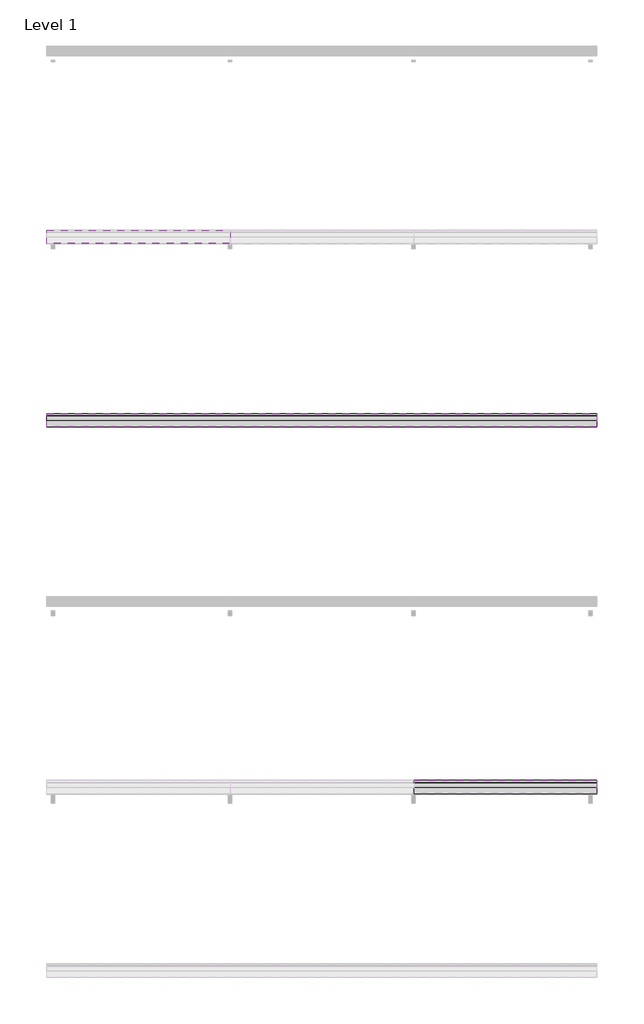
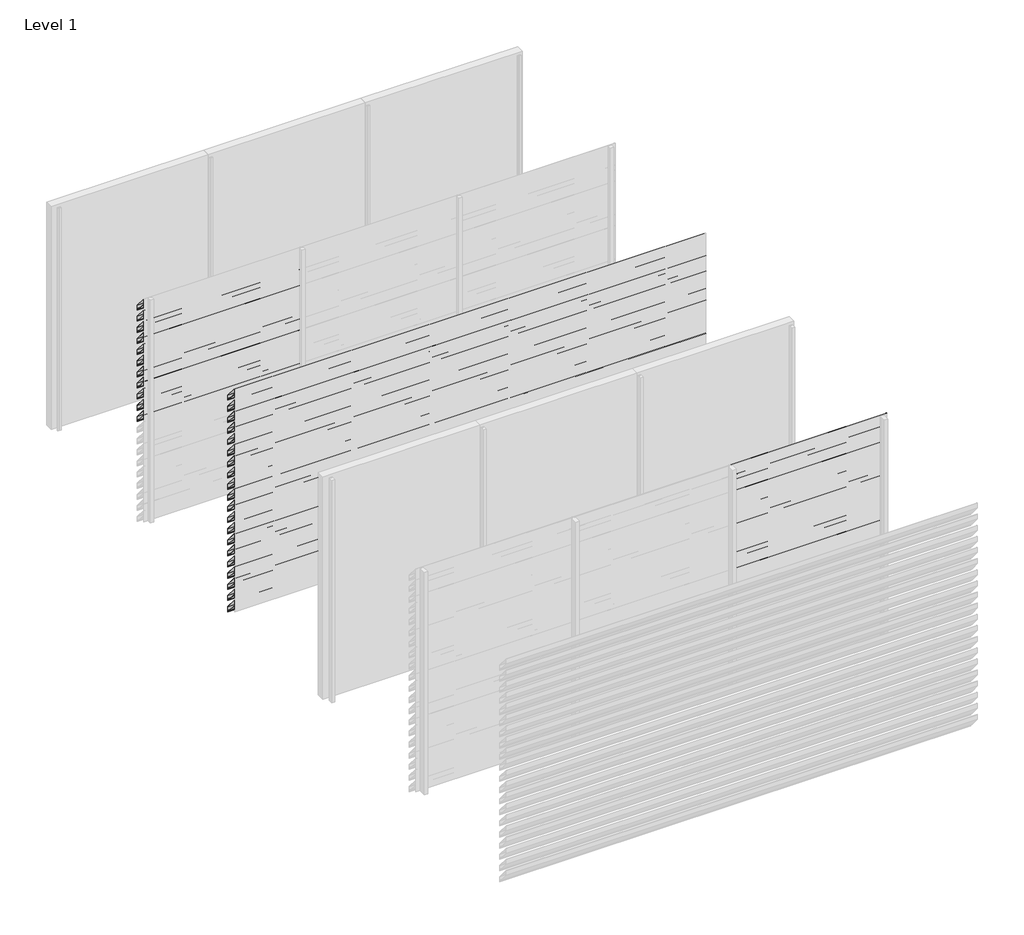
# One storey, part 8 of 16: 56 proxies.
"""IFC4 building model written with IfcOpenShell, lengths in millimetres."""

from ifc_helpers import new_model, si_unit, frame, origin, place, context, project, spatial, polyline, outline, extrude, element, save

model = new_model("IFC4")

# Units and contexts
model_context = context("Model", 3, world=origin())
ifc_project = project(units=[si_unit("LENGTHUNIT", "METRE", prefix="MILLI")], contexts=[model_context])

# Site, building, storey
site = spatial("IfcSite", under=ifc_project)
building = spatial("IfcBuilding", under=site)
storey = spatial("IfcBuildingStorey", under=building, Name="Level 1", Elevation=0.0)

# Proxies
placement = place(None, origin())
element("IfcBuildingElementProxy", 1, Name="Wall Sweeps", at=placement, inside=storey, context=model_context, shape_type="SweptSolid", body=[
    extrude(outline(polyline([(-29851.0, 2830.0), (-29851.0, 2761.0), (-29853.5, 2762.1657691), (-29853.5, 2775.7059843), (-29870.2498671, 2795.6676986), (-29880.9351065, 2795.6676986), (-29998.0, 2935.1802059), (-29998.0, 3000.0), (-29993.6469373, 3000.0), (-29851.0, 2830.0)]), holes=[polyline([(-29996.1, 2998.1), (-29996.1, 2935.8717493), (-29880.049122, 2797.5676986), (-29869.3638825, 2797.5676986), (-29852.9, 2777.9468074), (-29852.9, 2829.3084566), (-29994.5329219, 2998.1), (-29996.1, 2998.1)])]), frame((0.0, 0.0, 0.0), z_axis=(1.0, 0.0, 0.0), x_axis=(0.0, 1.0, 0.0)), (0.0, 0.0, 1.0), 2000.0),
])
element("IfcBuildingElementProxy", 2, Name="Wall Sweeps", at=placement, inside=storey, context=model_context, shape_type="SweptSolid", body=[
    extrude(outline(polyline([(-29851.0, 2680.0), (-29851.0, 2611.0), (-29853.5, 2612.1657691), (-29853.5, 2625.7059843), (-29870.2498671, 2645.6676986), (-29880.9351065, 2645.6676986), (-29998.0, 2785.1802059), (-29998.0, 2850.0), (-29993.6469373, 2850.0), (-29851.0, 2680.0)]), holes=[polyline([(-29996.1, 2848.1), (-29996.1, 2785.8717493), (-29880.049122, 2647.5676986), (-29869.3638825, 2647.5676986), (-29852.9, 2627.9468074), (-29852.9, 2679.3084566), (-29994.5329219, 2848.1), (-29996.1, 2848.1)])]), frame((0.0, 0.0, 0.0), z_axis=(1.0, 0.0, 0.0), x_axis=(0.0, 1.0, 0.0)), (0.0, 0.0, 1.0), 2000.0),
])
element("IfcBuildingElementProxy", 3, Name="Wall Sweeps", at=placement, inside=storey, context=model_context, shape_type="SweptSolid", body=[
    extrude(outline(polyline([(-29851.0, 2530.0), (-29851.0, 2461.0), (-29853.5, 2462.1657691), (-29853.5, 2475.7059843), (-29870.2498671, 2495.6676986), (-29880.9351065, 2495.6676986), (-29998.0, 2635.1802059), (-29998.0, 2700.0), (-29993.6469373, 2700.0), (-29851.0, 2530.0)]), holes=[polyline([(-29996.1, 2698.1), (-29996.1, 2635.8717493), (-29880.049122, 2497.5676986), (-29869.3638825, 2497.5676986), (-29852.9, 2477.9468074), (-29852.9, 2529.3084566), (-29994.5329219, 2698.1), (-29996.1, 2698.1)])]), frame((0.0, 0.0, 0.0), z_axis=(1.0, 0.0, 0.0), x_axis=(0.0, 1.0, 0.0)), (0.0, 0.0, 1.0), 2000.0),
])
element("IfcBuildingElementProxy", 4, Name="Wall Sweeps", at=placement, inside=storey, context=model_context, shape_type="SweptSolid", body=[
    extrude(outline(polyline([(-29851.0, 2380.0), (-29851.0, 2311.0), (-29853.5, 2312.1657691), (-29853.5, 2325.7059843), (-29870.2498671, 2345.6676986), (-29880.9351065, 2345.6676986), (-29998.0, 2485.1802059), (-29998.0, 2550.0), (-29993.6469373, 2550.0), (-29851.0, 2380.0)]), holes=[polyline([(-29996.1, 2548.1), (-29996.1, 2485.8717493), (-29880.049122, 2347.5676986), (-29869.3638825, 2347.5676986), (-29852.9, 2327.9468074), (-29852.9, 2379.3084566), (-29994.5329219, 2548.1), (-29996.1, 2548.1)])]), frame((0.0, 0.0, 0.0), z_axis=(1.0, 0.0, 0.0), x_axis=(0.0, 1.0, 0.0)), (0.0, 0.0, 1.0), 2000.0),
])
element("IfcBuildingElementProxy", 5, Name="Wall Sweeps", at=placement, inside=storey, context=model_context, shape_type="SweptSolid", body=[
    extrude(outline(polyline([(-29851.0, 2230.0), (-29851.0, 2161.0), (-29853.5, 2162.1657691), (-29853.5, 2175.7059843), (-29870.2498671, 2195.6676986), (-29880.9351065, 2195.6676986), (-29998.0, 2335.1802059), (-29998.0, 2400.0), (-29993.6469373, 2400.0), (-29851.0, 2230.0)]), holes=[polyline([(-29996.1, 2398.1), (-29996.1, 2335.8717493), (-29880.049122, 2197.5676986), (-29869.3638825, 2197.5676986), (-29852.9, 2177.9468074), (-29852.9, 2229.3084566), (-29994.5329219, 2398.1), (-29996.1, 2398.1)])]), frame((0.0, 0.0, 0.0), z_axis=(1.0, 0.0, 0.0), x_axis=(0.0, 1.0, 0.0)), (0.0, 0.0, 1.0), 2000.0),
])
element("IfcBuildingElementProxy", 6, Name="Wall Sweeps", at=placement, inside=storey, context=model_context, shape_type="SweptSolid", body=[
    extrude(outline(polyline([(-29851.0, 2080.0), (-29851.0, 2011.0), (-29853.5, 2012.1657691), (-29853.5, 2025.7059843), (-29870.2498671, 2045.6676986), (-29880.9351065, 2045.6676986), (-29998.0, 2185.1802059), (-29998.0, 2250.0), (-29993.6469373, 2250.0), (-29851.0, 2080.0)]), holes=[polyline([(-29996.1, 2248.1), (-29996.1, 2185.8717493), (-29880.049122, 2047.5676986), (-29869.3638825, 2047.5676986), (-29852.9, 2027.9468074), (-29852.9, 2079.3084566), (-29994.5329219, 2248.1), (-29996.1, 2248.1)])]), frame((0.0, 0.0, 0.0), z_axis=(1.0, 0.0, 0.0), x_axis=(0.0, 1.0, 0.0)), (0.0, 0.0, 1.0), 2000.0),
])
element("IfcBuildingElementProxy", 7, Name="Wall Sweeps", at=placement, inside=storey, context=model_context, shape_type="SweptSolid", body=[
    extrude(outline(polyline([(-29851.0, 1930.0), (-29851.0, 1861.0), (-29853.5, 1862.1657691), (-29853.5, 1875.7059843), (-29870.2498671, 1895.6676986), (-29880.9351065, 1895.6676986), (-29998.0, 2035.1802059), (-29998.0, 2100.0), (-29993.6469373, 2100.0), (-29851.0, 1930.0)]), holes=[polyline([(-29996.1, 2098.1), (-29996.1, 2035.8717493), (-29880.049122, 1897.5676986), (-29869.3638825, 1897.5676986), (-29852.9, 1877.9468074), (-29852.9, 1929.3084566), (-29994.5329219, 2098.1), (-29996.1, 2098.1)])]), frame((0.0, 0.0, 0.0), z_axis=(1.0, 0.0, 0.0), x_axis=(0.0, 1.0, 0.0)), (0.0, 0.0, 1.0), 2000.0),
])
element("IfcBuildingElementProxy", 8, Name="Wall Sweeps", at=placement, inside=storey, context=model_context, shape_type="SweptSolid", body=[
    extrude(outline(polyline([(-29851.0, 1780.0), (-29851.0, 1711.0), (-29853.5, 1712.1657691), (-29853.5, 1725.7059843), (-29870.2498671, 1745.6676986), (-29880.9351065, 1745.6676986), (-29998.0, 1885.1802059), (-29998.0, 1950.0), (-29993.6469373, 1950.0), (-29851.0, 1780.0)]), holes=[polyline([(-29996.1, 1948.1), (-29996.1, 1885.8717493), (-29880.049122, 1747.5676986), (-29869.3638825, 1747.5676986), (-29852.9, 1727.9468074), (-29852.9, 1779.3084566), (-29994.5329219, 1948.1), (-29996.1, 1948.1)])]), frame((0.0, 0.0, 0.0), z_axis=(1.0, 0.0, 0.0), x_axis=(0.0, 1.0, 0.0)), (0.0, 0.0, 1.0), 2000.0),
])
element("IfcBuildingElementProxy", 9, Name="Wall Sweeps", at=placement, inside=storey, context=model_context, shape_type="SweptSolid", body=[
    extrude(outline(polyline([(-29851.0, 1630.0), (-29851.0, 1561.0), (-29853.5, 1562.1657691), (-29853.5, 1575.7059843), (-29870.2498671, 1595.6676986), (-29880.9351065, 1595.6676986), (-29998.0, 1735.1802059), (-29998.0, 1800.0), (-29993.6469373, 1800.0), (-29851.0, 1630.0)]), holes=[polyline([(-29996.1, 1798.1), (-29996.1, 1735.8717493), (-29880.049122, 1597.5676986), (-29869.3638825, 1597.5676986), (-29852.9, 1577.9468074), (-29852.9, 1629.3084566), (-29994.5329219, 1798.1), (-29996.1, 1798.1)])]), frame((0.0, 0.0, 0.0), z_axis=(1.0, 0.0, 0.0), x_axis=(0.0, 1.0, 0.0)), (0.0, 0.0, 1.0), 2000.0),
])
element("IfcBuildingElementProxy", 10, Name="Wall Sweeps", at=placement, inside=storey, context=model_context, shape_type="SweptSolid", body=[
    extrude(outline(polyline([(-29851.0, 1480.0), (-29851.0, 1411.0), (-29853.5, 1412.1657691), (-29853.5, 1425.7059843), (-29870.2498671, 1445.6676986), (-29880.9351065, 1445.6676986), (-29998.0, 1585.1802059), (-29998.0, 1650.0), (-29993.6469373, 1650.0), (-29851.0, 1480.0)]), holes=[polyline([(-29996.1, 1648.1), (-29996.1, 1585.8717493), (-29880.049122, 1447.5676986), (-29869.3638825, 1447.5676986), (-29852.9, 1427.9468074), (-29852.9, 1479.3084566), (-29994.5329219, 1648.1), (-29996.1, 1648.1)])]), frame((0.0, 0.0, 0.0), z_axis=(1.0, 0.0, 0.0), x_axis=(0.0, 1.0, 0.0)), (0.0, 0.0, 1.0), 2000.0),
])
element("IfcBuildingElementProxy", 11, Name="Wall Sweeps", at=placement, inside=storey, context=model_context, shape_type="SweptSolid", body=[
    extrude(outline(polyline([(-29851.0, 1330.0), (-29851.0, 1261.0), (-29853.5, 1262.1657691), (-29853.5, 1275.7059843), (-29870.2498671, 1295.6676986), (-29880.9351065, 1295.6676986), (-29998.0, 1435.1802059), (-29998.0, 1500.0), (-29993.6469373, 1500.0), (-29851.0, 1330.0)]), holes=[polyline([(-29996.1, 1498.1), (-29996.1, 1435.8717493), (-29880.049122, 1297.5676986), (-29869.3638825, 1297.5676986), (-29852.9, 1277.9468074), (-29852.9, 1329.3084566), (-29994.5329219, 1498.1), (-29996.1, 1498.1)])]), frame((0.0, 0.0, 0.0), z_axis=(1.0, 0.0, 0.0), x_axis=(0.0, 1.0, 0.0)), (0.0, 0.0, 1.0), 2000.0),
])
element("IfcBuildingElementProxy", 12, Name="Wall Sweeps", at=placement, inside=storey, context=model_context, shape_type="SweptSolid", body=[
    extrude(outline(polyline([(-31851.0, 2830.0), (-31851.0, 2761.0), (-31853.5, 2762.1657691), (-31853.5, 2775.7059843), (-31870.2498671, 2795.6676986), (-31880.9351065, 2795.6676986), (-31998.0, 2935.1802059), (-31998.0, 3000.0), (-31993.6469373, 3000.0), (-31851.0, 2830.0)]), holes=[polyline([(-31996.1, 2998.1), (-31996.1, 2935.8717493), (-31880.049122, 2797.5676986), (-31869.3638825, 2797.5676986), (-31852.9, 2777.9468074), (-31852.9, 2829.3084566), (-31994.5329219, 2998.1), (-31996.1, 2998.1)])]), frame((0.0, 0.0, 0.0), z_axis=(1.0, 0.0, 0.0), x_axis=(0.0, 1.0, 0.0)), (0.0, 0.0, 1.0), 6000.0),
])
element("IfcBuildingElementProxy", 13, Name="Wall Sweeps", at=placement, inside=storey, context=model_context, shape_type="SweptSolid", body=[
    extrude(outline(polyline([(-31851.0, 2680.0), (-31851.0, 2611.0), (-31853.5, 2612.1657691), (-31853.5, 2625.7059843), (-31870.2498671, 2645.6676986), (-31880.9351065, 2645.6676986), (-31998.0, 2785.1802059), (-31998.0, 2850.0), (-31993.6469373, 2850.0), (-31851.0, 2680.0)]), holes=[polyline([(-31996.1, 2848.1), (-31996.1, 2785.8717493), (-31880.049122, 2647.5676986), (-31869.3638825, 2647.5676986), (-31852.9, 2627.9468074), (-31852.9, 2679.3084566), (-31994.5329219, 2848.1), (-31996.1, 2848.1)])]), frame((0.0, 0.0, 0.0), z_axis=(1.0, 0.0, 0.0), x_axis=(0.0, 1.0, 0.0)), (0.0, 0.0, 1.0), 6000.0),
])
element("IfcBuildingElementProxy", 14, Name="Wall Sweeps", at=placement, inside=storey, context=model_context, shape_type="SweptSolid", body=[
    extrude(outline(polyline([(-31851.0, 2530.0), (-31851.0, 2461.0), (-31853.5, 2462.1657691), (-31853.5, 2475.7059843), (-31870.2498671, 2495.6676986), (-31880.9351065, 2495.6676986), (-31998.0, 2635.1802059), (-31998.0, 2700.0), (-31993.6469373, 2700.0), (-31851.0, 2530.0)]), holes=[polyline([(-31996.1, 2698.1), (-31996.1, 2635.8717493), (-31880.049122, 2497.5676986), (-31869.3638825, 2497.5676986), (-31852.9, 2477.9468074), (-31852.9, 2529.3084566), (-31994.5329219, 2698.1), (-31996.1, 2698.1)])]), frame((0.0, 0.0, 0.0), z_axis=(1.0, 0.0, 0.0), x_axis=(0.0, 1.0, 0.0)), (0.0, 0.0, 1.0), 6000.0),
])
element("IfcBuildingElementProxy", 15, Name="Wall Sweeps", at=placement, inside=storey, context=model_context, shape_type="SweptSolid", body=[
    extrude(outline(polyline([(-31851.0, 2380.0), (-31851.0, 2311.0), (-31853.5, 2312.1657691), (-31853.5, 2325.7059843), (-31870.2498671, 2345.6676986), (-31880.9351065, 2345.6676986), (-31998.0, 2485.1802059), (-31998.0, 2550.0), (-31993.6469373, 2550.0), (-31851.0, 2380.0)]), holes=[polyline([(-31996.1, 2548.1), (-31996.1, 2485.8717493), (-31880.049122, 2347.5676986), (-31869.3638825, 2347.5676986), (-31852.9, 2327.9468074), (-31852.9, 2379.3084566), (-31994.5329219, 2548.1), (-31996.1, 2548.1)])]), frame((0.0, 0.0, 0.0), z_axis=(1.0, 0.0, 0.0), x_axis=(0.0, 1.0, 0.0)), (0.0, 0.0, 1.0), 6000.0),
])
element("IfcBuildingElementProxy", 16, Name="Wall Sweeps", at=placement, inside=storey, context=model_context, shape_type="SweptSolid", body=[
    extrude(outline(polyline([(-31851.0, 2230.0), (-31851.0, 2161.0), (-31853.5, 2162.1657691), (-31853.5, 2175.7059843), (-31870.2498671, 2195.6676986), (-31880.9351065, 2195.6676986), (-31998.0, 2335.1802059), (-31998.0, 2400.0), (-31993.6469373, 2400.0), (-31851.0, 2230.0)]), holes=[polyline([(-31996.1, 2398.1), (-31996.1, 2335.8717493), (-31880.049122, 2197.5676986), (-31869.3638825, 2197.5676986), (-31852.9, 2177.9468074), (-31852.9, 2229.3084566), (-31994.5329219, 2398.1), (-31996.1, 2398.1)])]), frame((0.0, 0.0, 0.0), z_axis=(1.0, 0.0, 0.0), x_axis=(0.0, 1.0, 0.0)), (0.0, 0.0, 1.0), 6000.0),
])
element("IfcBuildingElementProxy", 17, Name="Wall Sweeps", at=placement, inside=storey, context=model_context, shape_type="SweptSolid", body=[
    extrude(outline(polyline([(-31851.0, 2080.0), (-31851.0, 2011.0), (-31853.5, 2012.1657691), (-31853.5, 2025.7059843), (-31870.2498671, 2045.6676986), (-31880.9351065, 2045.6676986), (-31998.0, 2185.1802059), (-31998.0, 2250.0), (-31993.6469373, 2250.0), (-31851.0, 2080.0)]), holes=[polyline([(-31996.1, 2248.1), (-31996.1, 2185.8717493), (-31880.049122, 2047.5676986), (-31869.3638825, 2047.5676986), (-31852.9, 2027.9468074), (-31852.9, 2079.3084566), (-31994.5329219, 2248.1), (-31996.1, 2248.1)])]), frame((0.0, 0.0, 0.0), z_axis=(1.0, 0.0, 0.0), x_axis=(0.0, 1.0, 0.0)), (0.0, 0.0, 1.0), 6000.0),
])
element("IfcBuildingElementProxy", 18, Name="Wall Sweeps", at=placement, inside=storey, context=model_context, shape_type="SweptSolid", body=[
    extrude(outline(polyline([(-31851.0, 1930.0), (-31851.0, 1861.0), (-31853.5, 1862.1657691), (-31853.5, 1875.7059843), (-31870.2498671, 1895.6676986), (-31880.9351065, 1895.6676986), (-31998.0, 2035.1802059), (-31998.0, 2100.0), (-31993.6469373, 2100.0), (-31851.0, 1930.0)]), holes=[polyline([(-31996.1, 2098.1), (-31996.1, 2035.8717493), (-31880.049122, 1897.5676986), (-31869.3638825, 1897.5676986), (-31852.9, 1877.9468074), (-31852.9, 1929.3084566), (-31994.5329219, 2098.1), (-31996.1, 2098.1)])]), frame((0.0, 0.0, 0.0), z_axis=(1.0, 0.0, 0.0), x_axis=(0.0, 1.0, 0.0)), (0.0, 0.0, 1.0), 6000.0),
])
element("IfcBuildingElementProxy", 19, Name="Wall Sweeps", at=placement, inside=storey, context=model_context, shape_type="SweptSolid", body=[
    extrude(outline(polyline([(-31851.0, 1780.0), (-31851.0, 1711.0), (-31853.5, 1712.1657691), (-31853.5, 1725.7059843), (-31870.2498671, 1745.6676986), (-31880.9351065, 1745.6676986), (-31998.0, 1885.1802059), (-31998.0, 1950.0), (-31993.6469373, 1950.0), (-31851.0, 1780.0)]), holes=[polyline([(-31996.1, 1948.1), (-31996.1, 1885.8717493), (-31880.049122, 1747.5676986), (-31869.3638825, 1747.5676986), (-31852.9, 1727.9468074), (-31852.9, 1779.3084566), (-31994.5329219, 1948.1), (-31996.1, 1948.1)])]), frame((0.0, 0.0, 0.0), z_axis=(1.0, 0.0, 0.0), x_axis=(0.0, 1.0, 0.0)), (0.0, 0.0, 1.0), 6000.0),
])
element("IfcBuildingElementProxy", 20, Name="Wall Sweeps", at=placement, inside=storey, context=model_context, shape_type="SweptSolid", body=[
    extrude(outline(polyline([(-31851.0, 1630.0), (-31851.0, 1561.0), (-31853.5, 1562.1657691), (-31853.5, 1575.7059843), (-31870.2498671, 1595.6676986), (-31880.9351065, 1595.6676986), (-31998.0, 1735.1802059), (-31998.0, 1800.0), (-31993.6469373, 1800.0), (-31851.0, 1630.0)]), holes=[polyline([(-31996.1, 1798.1), (-31996.1, 1735.8717493), (-31880.049122, 1597.5676986), (-31869.3638825, 1597.5676986), (-31852.9, 1577.9468074), (-31852.9, 1629.3084566), (-31994.5329219, 1798.1), (-31996.1, 1798.1)])]), frame((0.0, 0.0, 0.0), z_axis=(1.0, 0.0, 0.0), x_axis=(0.0, 1.0, 0.0)), (0.0, 0.0, 1.0), 6000.0),
])
element("IfcBuildingElementProxy", 21, Name="Wall Sweeps", at=placement, inside=storey, context=model_context, shape_type="SweptSolid", body=[
    extrude(outline(polyline([(-31851.0, 1480.0), (-31851.0, 1411.0), (-31853.5, 1412.1657691), (-31853.5, 1425.7059843), (-31870.2498671, 1445.6676986), (-31880.9351065, 1445.6676986), (-31998.0, 1585.1802059), (-31998.0, 1650.0), (-31993.6469373, 1650.0), (-31851.0, 1480.0)]), holes=[polyline([(-31996.1, 1648.1), (-31996.1, 1585.8717493), (-31880.049122, 1447.5676986), (-31869.3638825, 1447.5676986), (-31852.9, 1427.9468074), (-31852.9, 1479.3084566), (-31994.5329219, 1648.1), (-31996.1, 1648.1)])]), frame((0.0, 0.0, 0.0), z_axis=(1.0, 0.0, 0.0), x_axis=(0.0, 1.0, 0.0)), (0.0, 0.0, 1.0), 6000.0),
])
element("IfcBuildingElementProxy", 22, Name="Wall Sweeps", at=placement, inside=storey, context=model_context, shape_type="SweptSolid", body=[
    extrude(outline(polyline([(-31851.0, 1330.0), (-31851.0, 1261.0), (-31853.5, 1262.1657691), (-31853.5, 1275.7059843), (-31870.2498671, 1295.6676986), (-31880.9351065, 1295.6676986), (-31998.0, 1435.1802059), (-31998.0, 1500.0), (-31993.6469373, 1500.0), (-31851.0, 1330.0)]), holes=[polyline([(-31996.1, 1498.1), (-31996.1, 1435.8717493), (-31880.049122, 1297.5676986), (-31869.3638825, 1297.5676986), (-31852.9, 1277.9468074), (-31852.9, 1329.3084566), (-31994.5329219, 1498.1), (-31996.1, 1498.1)])]), frame((0.0, 0.0, 0.0), z_axis=(1.0, 0.0, 0.0), x_axis=(0.0, 1.0, 0.0)), (0.0, 0.0, 1.0), 6000.0),
])
element("IfcBuildingElementProxy", 23, Name="Wall Sweeps", at=placement, inside=storey, context=model_context, shape_type="SweptSolid", body=[
    extrude(outline(polyline([(-31851.0, 1180.0), (-31851.0, 1111.0), (-31853.5, 1112.1657691), (-31853.5, 1125.7059843), (-31870.2498671, 1145.6676986), (-31880.9351065, 1145.6676986), (-31998.0, 1285.1802059), (-31998.0, 1350.0), (-31993.6469373, 1350.0), (-31851.0, 1180.0)]), holes=[polyline([(-31996.1, 1348.1), (-31996.1, 1285.8717493), (-31880.049122, 1147.5676986), (-31869.3638825, 1147.5676986), (-31852.9, 1127.9468074), (-31852.9, 1179.3084566), (-31994.5329219, 1348.1), (-31996.1, 1348.1)])]), frame((0.0, 0.0, 0.0), z_axis=(1.0, 0.0, 0.0), x_axis=(0.0, 1.0, 0.0)), (0.0, 0.0, 1.0), 6000.0),
])
element("IfcBuildingElementProxy", 24, Name="Wall Sweeps", at=placement, inside=storey, context=model_context, shape_type="SweptSolid", body=[
    extrude(outline(polyline([(-31851.0, 1030.0), (-31851.0, 961.0), (-31853.5, 962.1657691), (-31853.5, 975.7059843), (-31870.2498671, 995.6676986), (-31880.9351065, 995.6676986), (-31998.0, 1135.1802059), (-31998.0, 1200.0), (-31993.6469373, 1200.0), (-31851.0, 1030.0)]), holes=[polyline([(-31996.1, 1198.1), (-31996.1, 1135.8717493), (-31880.049122, 997.5676986), (-31869.3638825, 997.5676986), (-31852.9, 977.9468074), (-31852.9, 1029.3084566), (-31994.5329219, 1198.1), (-31996.1, 1198.1)])]), frame((0.0, 0.0, 0.0), z_axis=(1.0, 0.0, 0.0), x_axis=(0.0, 1.0, 0.0)), (0.0, 0.0, 1.0), 6000.0),
])
element("IfcBuildingElementProxy", 25, Name="Wall Sweeps", at=placement, inside=storey, context=model_context, shape_type="SweptSolid", body=[
    extrude(outline(polyline([(-31851.0, 880.0), (-31851.0, 811.0), (-31853.5, 812.1657691), (-31853.5, 825.7059843), (-31870.2498671, 845.6676986), (-31880.9351065, 845.6676986), (-31998.0, 985.1802059), (-31998.0, 1050.0), (-31993.6469373, 1050.0), (-31851.0, 880.0)]), holes=[polyline([(-31996.1, 1048.1), (-31996.1, 985.8717493), (-31880.049122, 847.5676986), (-31869.3638825, 847.5676986), (-31852.9, 827.9468074), (-31852.9, 879.3084566), (-31994.5329219, 1048.1), (-31996.1, 1048.1)])]), frame((0.0, 0.0, 0.0), z_axis=(1.0, 0.0, 0.0), x_axis=(0.0, 1.0, 0.0)), (0.0, 0.0, 1.0), 6000.0),
])
element("IfcBuildingElementProxy", 26, Name="Wall Sweeps", at=placement, inside=storey, context=model_context, shape_type="SweptSolid", body=[
    extrude(outline(polyline([(-31851.0, 730.0), (-31851.0, 661.0), (-31853.5, 662.1657691), (-31853.5, 675.7059843), (-31870.2498671, 695.6676986), (-31880.9351065, 695.6676986), (-31998.0, 835.1802059), (-31998.0, 900.0), (-31993.6469373, 900.0), (-31851.0, 730.0)]), holes=[polyline([(-31996.1, 898.1), (-31996.1, 835.8717493), (-31880.049122, 697.5676986), (-31869.3638825, 697.5676986), (-31852.9, 677.9468074), (-31852.9, 729.3084566), (-31994.5329219, 898.1), (-31996.1, 898.1)])]), frame((0.0, 0.0, 0.0), z_axis=(1.0, 0.0, 0.0), x_axis=(0.0, 1.0, 0.0)), (0.0, 0.0, 1.0), 6000.0),
])
element("IfcBuildingElementProxy", 27, Name="Wall Sweeps", at=placement, inside=storey, context=model_context, shape_type="SweptSolid", body=[
    extrude(outline(polyline([(-31851.0, 580.0), (-31851.0, 511.0), (-31853.5, 512.1657691), (-31853.5, 525.7059843), (-31870.2498671, 545.6676986), (-31880.9351065, 545.6676986), (-31998.0, 685.1802059), (-31998.0, 750.0), (-31993.6469373, 750.0), (-31851.0, 580.0)]), holes=[polyline([(-31996.1, 748.1), (-31996.1, 685.8717493), (-31880.049122, 547.5676986), (-31869.3638825, 547.5676986), (-31852.9, 527.9468074), (-31852.9, 579.3084566), (-31994.5329219, 748.1), (-31996.1, 748.1)])]), frame((0.0, 0.0, 0.0), z_axis=(1.0, 0.0, 0.0), x_axis=(0.0, 1.0, 0.0)), (0.0, 0.0, 1.0), 6000.0),
])
element("IfcBuildingElementProxy", 28, Name="Wall Sweeps", at=placement, inside=storey, context=model_context, shape_type="SweptSolid", body=[
    extrude(outline(polyline([(-31851.0, 430.0), (-31851.0, 361.0), (-31853.5, 362.1657691), (-31853.5, 375.7059843), (-31870.2498671, 395.6676986), (-31880.9351065, 395.6676986), (-31998.0, 535.1802059), (-31998.0, 600.0), (-31993.6469373, 600.0), (-31851.0, 430.0)]), holes=[polyline([(-31996.1, 598.1), (-31996.1, 535.8717493), (-31880.049122, 397.5676986), (-31869.3638825, 397.5676986), (-31852.9, 377.9468074), (-31852.9, 429.3084566), (-31994.5329219, 598.1), (-31996.1, 598.1)])]), frame((0.0, 0.0, 0.0), z_axis=(1.0, 0.0, 0.0), x_axis=(0.0, 1.0, 0.0)), (0.0, 0.0, 1.0), 6000.0),
])
element("IfcBuildingElementProxy", 29, Name="Wall Sweeps", at=placement, inside=storey, context=model_context, shape_type="SweptSolid", body=[
    extrude(outline(polyline([(-31851.0, 280.0), (-31851.0, 211.0), (-31853.5, 212.1657691), (-31853.5, 225.7059843), (-31870.2498671, 245.6676986), (-31880.9351065, 245.6676986), (-31998.0, 385.1802059), (-31998.0, 450.0), (-31993.6469373, 450.0), (-31851.0, 280.0)]), holes=[polyline([(-31996.1, 448.1), (-31996.1, 385.8717493), (-31880.049122, 247.5676986), (-31869.3638825, 247.5676986), (-31852.9, 227.9468074), (-31852.9, 279.3084566), (-31994.5329219, 448.1), (-31996.1, 448.1)])]), frame((0.0, 0.0, 0.0), z_axis=(1.0, 0.0, 0.0), x_axis=(0.0, 1.0, 0.0)), (0.0, 0.0, 1.0), 6000.0),
])
element("IfcBuildingElementProxy", 30, Name="Wall Sweeps", at=placement, inside=storey, context=model_context, shape_type="SweptSolid", body=[
    extrude(outline(polyline([(-31851.0, 130.0), (-31851.0, 61.0), (-31853.5, 62.1657691), (-31853.5, 75.7059843), (-31870.2498671, 95.6676986), (-31880.9351065, 95.6676986), (-31998.0, 235.1802059), (-31998.0, 300.0), (-31993.6469373, 300.0), (-31851.0, 130.0)]), holes=[polyline([(-31996.1, 298.1), (-31996.1, 235.8717493), (-31880.049122, 97.5676986), (-31869.3638825, 97.5676986), (-31852.9, 77.9468074), (-31852.9, 129.3084566), (-31994.5329219, 298.1), (-31996.1, 298.1)])]), frame((0.0, 0.0, 0.0), z_axis=(1.0, 0.0, 0.0), x_axis=(0.0, 1.0, 0.0)), (0.0, 0.0, 1.0), 6000.0),
])
element("IfcBuildingElementProxy", 31, Name="Wall Sweeps", at=placement, inside=storey, context=model_context, shape_type="SweptSolid", body=[
    extrude(outline(polyline([(-31851.0, -20.0), (-31851.0, -89.0), (-31853.5, -87.8342309), (-31853.5, -74.2940157), (-31870.2498671, -54.3323014), (-31880.9351065, -54.3323014), (-31998.0, 85.1802059), (-31998.0, 150.0), (-31993.6469373, 150.0), (-31851.0, -20.0)]), holes=[polyline([(-31996.1, 148.1), (-31996.1, 85.8717493), (-31880.049122, -52.4323014), (-31869.3638825, -52.4323014), (-31852.9, -72.0531926), (-31852.9, -20.6915434), (-31994.5329219, 148.1), (-31996.1, 148.1)])]), frame((0.0, 0.0, 0.0), z_axis=(1.0, 0.0, 0.0), x_axis=(0.0, 1.0, 0.0)), (0.0, 0.0, 1.0), 6000.0),
])
element("IfcBuildingElementProxy", 32, Name="Wall Sweeps", at=placement, inside=storey, context=model_context, shape_type="SweptSolid", body=[
    extrude(outline(polyline([(-35851.0, 580.0), (-35851.0, 511.0), (-35853.5, 512.1657691), (-35853.5, 525.7059843), (-35870.2498671, 545.6676986), (-35880.9351065, 545.6676986), (-35998.0, 685.1802059), (-35998.0, 750.0), (-35993.6469373, 750.0), (-35851.0, 580.0)]), holes=[polyline([(-35996.1, 748.1), (-35996.1, 685.8717493), (-35880.049122, 547.5676986), (-35869.3638825, 547.5676986), (-35852.9, 527.9468074), (-35852.9, 579.3084566), (-35994.5329219, 748.1), (-35996.1, 748.1)])]), frame((2000.0, 0.0, 0.0), z_axis=(1.0, 0.0, 0.0), x_axis=(0.0, 1.0, 0.0)), (0.0, 0.0, 1.0), 2000.0),
])
element("IfcBuildingElementProxy", 33, Name="Wall Sweeps", at=placement, inside=storey, context=model_context, shape_type="SweptSolid", body=[
    extrude(outline(polyline([(-35851.0, 430.0), (-35851.0, 361.0), (-35853.5, 362.1657691), (-35853.5, 375.7059843), (-35870.2498671, 395.6676986), (-35880.9351065, 395.6676986), (-35998.0, 535.1802059), (-35998.0, 600.0), (-35993.6469373, 600.0), (-35851.0, 430.0)]), holes=[polyline([(-35996.1, 598.1), (-35996.1, 535.8717493), (-35880.049122, 397.5676986), (-35869.3638825, 397.5676986), (-35852.9, 377.9468074), (-35852.9, 429.3084566), (-35994.5329219, 598.1), (-35996.1, 598.1)])]), frame((2000.0, 0.0, 0.0), z_axis=(1.0, 0.0, 0.0), x_axis=(0.0, 1.0, 0.0)), (0.0, 0.0, 1.0), 2000.0),
])
element("IfcBuildingElementProxy", 34, Name="Wall Sweeps", at=placement, inside=storey, context=model_context, shape_type="SweptSolid", body=[
    extrude(outline(polyline([(-35851.0, 280.0), (-35851.0, 211.0), (-35853.5, 212.1657691), (-35853.5, 225.7059843), (-35870.2498671, 245.6676986), (-35880.9351065, 245.6676986), (-35998.0, 385.1802059), (-35998.0, 450.0), (-35993.6469373, 450.0), (-35851.0, 280.0)]), holes=[polyline([(-35996.1, 448.1), (-35996.1, 385.8717493), (-35880.049122, 247.5676986), (-35869.3638825, 247.5676986), (-35852.9, 227.9468074), (-35852.9, 279.3084566), (-35994.5329219, 448.1), (-35996.1, 448.1)])]), frame((2000.0, 0.0, 0.0), z_axis=(1.0, 0.0, 0.0), x_axis=(0.0, 1.0, 0.0)), (0.0, 0.0, 1.0), 2000.0),
])
element("IfcBuildingElementProxy", 35, Name="Wall Sweeps", at=placement, inside=storey, context=model_context, shape_type="SweptSolid", body=[
    extrude(outline(polyline([(-35851.0, 130.0), (-35851.0, 61.0), (-35853.5, 62.1657691), (-35853.5, 75.7059843), (-35870.2498671, 95.6676986), (-35880.9351065, 95.6676986), (-35998.0, 235.1802059), (-35998.0, 300.0), (-35993.6469373, 300.0), (-35851.0, 130.0)]), holes=[polyline([(-35996.1, 298.1), (-35996.1, 235.8717493), (-35880.049122, 97.5676986), (-35869.3638825, 97.5676986), (-35852.9, 77.9468074), (-35852.9, 129.3084566), (-35994.5329219, 298.1), (-35996.1, 298.1)])]), frame((2000.0, 0.0, 0.0), z_axis=(1.0, 0.0, 0.0), x_axis=(0.0, 1.0, 0.0)), (0.0, 0.0, 1.0), 2000.0),
])
element("IfcBuildingElementProxy", 36, Name="Wall Sweeps", at=placement, inside=storey, context=model_context, shape_type="SweptSolid", body=[
    extrude(outline(polyline([(-35851.0, -20.0), (-35851.0, -89.0), (-35853.5, -87.8342309), (-35853.5, -74.2940157), (-35870.2498671, -54.3323014), (-35880.9351065, -54.3323014), (-35998.0, 85.1802059), (-35998.0, 150.0), (-35993.6469373, 150.0), (-35851.0, -20.0)]), holes=[polyline([(-35996.1, 148.1), (-35996.1, 85.8717493), (-35880.049122, -52.4323014), (-35869.3638825, -52.4323014), (-35852.9, -72.0531926), (-35852.9, -20.6915434), (-35994.5329219, 148.1), (-35996.1, 148.1)])]), frame((2000.0, 0.0, 0.0), z_axis=(1.0, 0.0, 0.0), x_axis=(0.0, 1.0, 0.0)), (0.0, 0.0, 1.0), 2000.0),
])
element("IfcBuildingElementProxy", 37, Name="Wall Sweeps", at=placement, inside=storey, context=model_context, shape_type="SweptSolid", body=[
    extrude(outline(polyline([(-35851.0, 2830.0), (-35851.0, 2761.0), (-35853.5, 2762.1657691), (-35853.5, 2775.7059843), (-35870.2498671, 2795.6676986), (-35880.9351065, 2795.6676986), (-35998.0, 2935.1802059), (-35998.0, 3000.0), (-35993.6469373, 3000.0), (-35851.0, 2830.0)]), holes=[polyline([(-35996.1, 2998.1), (-35996.1, 2935.8717493), (-35880.049122, 2797.5676986), (-35869.3638825, 2797.5676986), (-35852.9, 2777.9468074), (-35852.9, 2829.3084566), (-35994.5329219, 2998.1), (-35996.1, 2998.1)])]), frame((4000.0, 0.0, 0.0), z_axis=(1.0, 0.0, 0.0), x_axis=(0.0, 1.0, 0.0)), (0.0, 0.0, 1.0), 2000.0),
])
element("IfcBuildingElementProxy", 38, Name="Wall Sweeps", at=placement, inside=storey, context=model_context, shape_type="SweptSolid", body=[
    extrude(outline(polyline([(-35851.0, 2680.0), (-35851.0, 2611.0), (-35853.5, 2612.1657691), (-35853.5, 2625.7059843), (-35870.2498671, 2645.6676986), (-35880.9351065, 2645.6676986), (-35998.0, 2785.1802059), (-35998.0, 2850.0), (-35993.6469373, 2850.0), (-35851.0, 2680.0)]), holes=[polyline([(-35996.1, 2848.1), (-35996.1, 2785.8717493), (-35880.049122, 2647.5676986), (-35869.3638825, 2647.5676986), (-35852.9, 2627.9468074), (-35852.9, 2679.3084566), (-35994.5329219, 2848.1), (-35996.1, 2848.1)])]), frame((4000.0, 0.0, 0.0), z_axis=(1.0, 0.0, 0.0), x_axis=(0.0, 1.0, 0.0)), (0.0, 0.0, 1.0), 2000.0),
])
element("IfcBuildingElementProxy", 39, Name="Wall Sweeps", at=placement, inside=storey, context=model_context, shape_type="SweptSolid", body=[
    extrude(outline(polyline([(-35851.0, 2530.0), (-35851.0, 2461.0), (-35853.5, 2462.1657691), (-35853.5, 2475.7059843), (-35870.2498671, 2495.6676986), (-35880.9351065, 2495.6676986), (-35998.0, 2635.1802059), (-35998.0, 2700.0), (-35993.6469373, 2700.0), (-35851.0, 2530.0)]), holes=[polyline([(-35996.1, 2698.1), (-35996.1, 2635.8717493), (-35880.049122, 2497.5676986), (-35869.3638825, 2497.5676986), (-35852.9, 2477.9468074), (-35852.9, 2529.3084566), (-35994.5329219, 2698.1), (-35996.1, 2698.1)])]), frame((4000.0, 0.0, 0.0), z_axis=(1.0, 0.0, 0.0), x_axis=(0.0, 1.0, 0.0)), (0.0, 0.0, 1.0), 2000.0),
])
element("IfcBuildingElementProxy", 40, Name="Wall Sweeps", at=placement, inside=storey, context=model_context, shape_type="SweptSolid", body=[
    extrude(outline(polyline([(-35851.0, 2380.0), (-35851.0, 2311.0), (-35853.5, 2312.1657691), (-35853.5, 2325.7059843), (-35870.2498671, 2345.6676986), (-35880.9351065, 2345.6676986), (-35998.0, 2485.1802059), (-35998.0, 2550.0), (-35993.6469373, 2550.0), (-35851.0, 2380.0)]), holes=[polyline([(-35996.1, 2548.1), (-35996.1, 2485.8717493), (-35880.049122, 2347.5676986), (-35869.3638825, 2347.5676986), (-35852.9, 2327.9468074), (-35852.9, 2379.3084566), (-35994.5329219, 2548.1), (-35996.1, 2548.1)])]), frame((4000.0, 0.0, 0.0), z_axis=(1.0, 0.0, 0.0), x_axis=(0.0, 1.0, 0.0)), (0.0, 0.0, 1.0), 2000.0),
])
element("IfcBuildingElementProxy", 41, Name="Wall Sweeps", at=placement, inside=storey, context=model_context, shape_type="SweptSolid", body=[
    extrude(outline(polyline([(-35851.0, 2230.0), (-35851.0, 2161.0), (-35853.5, 2162.1657691), (-35853.5, 2175.7059843), (-35870.2498671, 2195.6676986), (-35880.9351065, 2195.6676986), (-35998.0, 2335.1802059), (-35998.0, 2400.0), (-35993.6469373, 2400.0), (-35851.0, 2230.0)]), holes=[polyline([(-35996.1, 2398.1), (-35996.1, 2335.8717493), (-35880.049122, 2197.5676986), (-35869.3638825, 2197.5676986), (-35852.9, 2177.9468074), (-35852.9, 2229.3084566), (-35994.5329219, 2398.1), (-35996.1, 2398.1)])]), frame((4000.0, 0.0, 0.0), z_axis=(1.0, 0.0, 0.0), x_axis=(0.0, 1.0, 0.0)), (0.0, 0.0, 1.0), 2000.0),
])
element("IfcBuildingElementProxy", 42, Name="Wall Sweeps", at=placement, inside=storey, context=model_context, shape_type="SweptSolid", body=[
    extrude(outline(polyline([(-35851.0, 2080.0), (-35851.0, 2011.0), (-35853.5, 2012.1657691), (-35853.5, 2025.7059843), (-35870.2498671, 2045.6676986), (-35880.9351065, 2045.6676986), (-35998.0, 2185.1802059), (-35998.0, 2250.0), (-35993.6469373, 2250.0), (-35851.0, 2080.0)]), holes=[polyline([(-35996.1, 2248.1), (-35996.1, 2185.8717493), (-35880.049122, 2047.5676986), (-35869.3638825, 2047.5676986), (-35852.9, 2027.9468074), (-35852.9, 2079.3084566), (-35994.5329219, 2248.1), (-35996.1, 2248.1)])]), frame((4000.0, 0.0, 0.0), z_axis=(1.0, 0.0, 0.0), x_axis=(0.0, 1.0, 0.0)), (0.0, 0.0, 1.0), 2000.0),
])
element("IfcBuildingElementProxy", 43, Name="Wall Sweeps", at=placement, inside=storey, context=model_context, shape_type="SweptSolid", body=[
    extrude(outline(polyline([(-35851.0, 1930.0), (-35851.0, 1861.0), (-35853.5, 1862.1657691), (-35853.5, 1875.7059843), (-35870.2498671, 1895.6676986), (-35880.9351065, 1895.6676986), (-35998.0, 2035.1802059), (-35998.0, 2100.0), (-35993.6469373, 2100.0), (-35851.0, 1930.0)]), holes=[polyline([(-35996.1, 2098.1), (-35996.1, 2035.8717493), (-35880.049122, 1897.5676986), (-35869.3638825, 1897.5676986), (-35852.9, 1877.9468074), (-35852.9, 1929.3084566), (-35994.5329219, 2098.1), (-35996.1, 2098.1)])]), frame((4000.0, 0.0, 0.0), z_axis=(1.0, 0.0, 0.0), x_axis=(0.0, 1.0, 0.0)), (0.0, 0.0, 1.0), 2000.0),
])
element("IfcBuildingElementProxy", 44, Name="Wall Sweeps", at=placement, inside=storey, context=model_context, shape_type="SweptSolid", body=[
    extrude(outline(polyline([(-35851.0, 1780.0), (-35851.0, 1711.0), (-35853.5, 1712.1657691), (-35853.5, 1725.7059843), (-35870.2498671, 1745.6676986), (-35880.9351065, 1745.6676986), (-35998.0, 1885.1802059), (-35998.0, 1950.0), (-35993.6469373, 1950.0), (-35851.0, 1780.0)]), holes=[polyline([(-35996.1, 1948.1), (-35996.1, 1885.8717493), (-35880.049122, 1747.5676986), (-35869.3638825, 1747.5676986), (-35852.9, 1727.9468074), (-35852.9, 1779.3084566), (-35994.5329219, 1948.1), (-35996.1, 1948.1)])]), frame((4000.0, 0.0, 0.0), z_axis=(1.0, 0.0, 0.0), x_axis=(0.0, 1.0, 0.0)), (0.0, 0.0, 1.0), 2000.0),
])
element("IfcBuildingElementProxy", 45, Name="Wall Sweeps", at=placement, inside=storey, context=model_context, shape_type="SweptSolid", body=[
    extrude(outline(polyline([(-35851.0, 1630.0), (-35851.0, 1561.0), (-35853.5, 1562.1657691), (-35853.5, 1575.7059843), (-35870.2498671, 1595.6676986), (-35880.9351065, 1595.6676986), (-35998.0, 1735.1802059), (-35998.0, 1800.0), (-35993.6469373, 1800.0), (-35851.0, 1630.0)]), holes=[polyline([(-35996.1, 1798.1), (-35996.1, 1735.8717493), (-35880.049122, 1597.5676986), (-35869.3638825, 1597.5676986), (-35852.9, 1577.9468074), (-35852.9, 1629.3084566), (-35994.5329219, 1798.1), (-35996.1, 1798.1)])]), frame((4000.0, 0.0, 0.0), z_axis=(1.0, 0.0, 0.0), x_axis=(0.0, 1.0, 0.0)), (0.0, 0.0, 1.0), 2000.0),
])
element("IfcBuildingElementProxy", 46, Name="Wall Sweeps", at=placement, inside=storey, context=model_context, shape_type="SweptSolid", body=[
    extrude(outline(polyline([(-35851.0, 1480.0), (-35851.0, 1411.0), (-35853.5, 1412.1657691), (-35853.5, 1425.7059843), (-35870.2498671, 1445.6676986), (-35880.9351065, 1445.6676986), (-35998.0, 1585.1802059), (-35998.0, 1650.0), (-35993.6469373, 1650.0), (-35851.0, 1480.0)]), holes=[polyline([(-35996.1, 1648.1), (-35996.1, 1585.8717493), (-35880.049122, 1447.5676986), (-35869.3638825, 1447.5676986), (-35852.9, 1427.9468074), (-35852.9, 1479.3084566), (-35994.5329219, 1648.1), (-35996.1, 1648.1)])]), frame((4000.0, 0.0, 0.0), z_axis=(1.0, 0.0, 0.0), x_axis=(0.0, 1.0, 0.0)), (0.0, 0.0, 1.0), 2000.0),
])
element("IfcBuildingElementProxy", 47, Name="Wall Sweeps", at=placement, inside=storey, context=model_context, shape_type="SweptSolid", body=[
    extrude(outline(polyline([(-35851.0, 1330.0), (-35851.0, 1261.0), (-35853.5, 1262.1657691), (-35853.5, 1275.7059843), (-35870.2498671, 1295.6676986), (-35880.9351065, 1295.6676986), (-35998.0, 1435.1802059), (-35998.0, 1500.0), (-35993.6469373, 1500.0), (-35851.0, 1330.0)]), holes=[polyline([(-35996.1, 1498.1), (-35996.1, 1435.8717493), (-35880.049122, 1297.5676986), (-35869.3638825, 1297.5676986), (-35852.9, 1277.9468074), (-35852.9, 1329.3084566), (-35994.5329219, 1498.1), (-35996.1, 1498.1)])]), frame((4000.0, 0.0, 0.0), z_axis=(1.0, 0.0, 0.0), x_axis=(0.0, 1.0, 0.0)), (0.0, 0.0, 1.0), 2000.0),
])
element("IfcBuildingElementProxy", 48, Name="Wall Sweeps", at=placement, inside=storey, context=model_context, shape_type="SweptSolid", body=[
    extrude(outline(polyline([(-35851.0, 1180.0), (-35851.0, 1111.0), (-35853.5, 1112.1657691), (-35853.5, 1125.7059843), (-35870.2498671, 1145.6676986), (-35880.9351065, 1145.6676986), (-35998.0, 1285.1802059), (-35998.0, 1350.0), (-35993.6469373, 1350.0), (-35851.0, 1180.0)]), holes=[polyline([(-35996.1, 1348.1), (-35996.1, 1285.8717493), (-35880.049122, 1147.5676986), (-35869.3638825, 1147.5676986), (-35852.9, 1127.9468074), (-35852.9, 1179.3084566), (-35994.5329219, 1348.1), (-35996.1, 1348.1)])]), frame((4000.0, 0.0, 0.0), z_axis=(1.0, 0.0, 0.0), x_axis=(0.0, 1.0, 0.0)), (0.0, 0.0, 1.0), 2000.0),
])
element("IfcBuildingElementProxy", 49, Name="Wall Sweeps", at=placement, inside=storey, context=model_context, shape_type="SweptSolid", body=[
    extrude(outline(polyline([(-35851.0, 1030.0), (-35851.0, 961.0), (-35853.5, 962.1657691), (-35853.5, 975.7059843), (-35870.2498671, 995.6676986), (-35880.9351065, 995.6676986), (-35998.0, 1135.1802059), (-35998.0, 1200.0), (-35993.6469373, 1200.0), (-35851.0, 1030.0)]), holes=[polyline([(-35996.1, 1198.1), (-35996.1, 1135.8717493), (-35880.049122, 997.5676986), (-35869.3638825, 997.5676986), (-35852.9, 977.9468074), (-35852.9, 1029.3084566), (-35994.5329219, 1198.1), (-35996.1, 1198.1)])]), frame((4000.0, 0.0, 0.0), z_axis=(1.0, 0.0, 0.0), x_axis=(0.0, 1.0, 0.0)), (0.0, 0.0, 1.0), 2000.0),
])
element("IfcBuildingElementProxy", 50, Name="Wall Sweeps", at=placement, inside=storey, context=model_context, shape_type="SweptSolid", body=[
    extrude(outline(polyline([(-35851.0, 880.0), (-35851.0, 811.0), (-35853.5, 812.1657691), (-35853.5, 825.7059843), (-35870.2498671, 845.6676986), (-35880.9351065, 845.6676986), (-35998.0, 985.1802059), (-35998.0, 1050.0), (-35993.6469373, 1050.0), (-35851.0, 880.0)]), holes=[polyline([(-35996.1, 1048.1), (-35996.1, 985.8717493), (-35880.049122, 847.5676986), (-35869.3638825, 847.5676986), (-35852.9, 827.9468074), (-35852.9, 879.3084566), (-35994.5329219, 1048.1), (-35996.1, 1048.1)])]), frame((4000.0, 0.0, 0.0), z_axis=(1.0, 0.0, 0.0), x_axis=(0.0, 1.0, 0.0)), (0.0, 0.0, 1.0), 2000.0),
])
element("IfcBuildingElementProxy", 51, Name="Wall Sweeps", at=placement, inside=storey, context=model_context, shape_type="SweptSolid", body=[
    extrude(outline(polyline([(-35851.0, 730.0), (-35851.0, 661.0), (-35853.5, 662.1657691), (-35853.5, 675.7059843), (-35870.2498671, 695.6676986), (-35880.9351065, 695.6676986), (-35998.0, 835.1802059), (-35998.0, 900.0), (-35993.6469373, 900.0), (-35851.0, 730.0)]), holes=[polyline([(-35996.1, 898.1), (-35996.1, 835.8717493), (-35880.049122, 697.5676986), (-35869.3638825, 697.5676986), (-35852.9, 677.9468074), (-35852.9, 729.3084566), (-35994.5329219, 898.1), (-35996.1, 898.1)])]), frame((4000.0, 0.0, 0.0), z_axis=(1.0, 0.0, 0.0), x_axis=(0.0, 1.0, 0.0)), (0.0, 0.0, 1.0), 2000.0),
])
element("IfcBuildingElementProxy", 52, Name="Wall Sweeps", at=placement, inside=storey, context=model_context, shape_type="SweptSolid", body=[
    extrude(outline(polyline([(-35851.0, 580.0), (-35851.0, 511.0), (-35853.5, 512.1657691), (-35853.5, 525.7059843), (-35870.2498671, 545.6676986), (-35880.9351065, 545.6676986), (-35998.0, 685.1802059), (-35998.0, 750.0), (-35993.6469373, 750.0), (-35851.0, 580.0)]), holes=[polyline([(-35996.1, 748.1), (-35996.1, 685.8717493), (-35880.049122, 547.5676986), (-35869.3638825, 547.5676986), (-35852.9, 527.9468074), (-35852.9, 579.3084566), (-35994.5329219, 748.1), (-35996.1, 748.1)])]), frame((4000.0, 0.0, 0.0), z_axis=(1.0, 0.0, 0.0), x_axis=(0.0, 1.0, 0.0)), (0.0, 0.0, 1.0), 2000.0),
])
element("IfcBuildingElementProxy", 53, Name="Wall Sweeps", at=placement, inside=storey, context=model_context, shape_type="SweptSolid", body=[
    extrude(outline(polyline([(-35851.0, 430.0), (-35851.0, 361.0), (-35853.5, 362.1657691), (-35853.5, 375.7059843), (-35870.2498671, 395.6676986), (-35880.9351065, 395.6676986), (-35998.0, 535.1802059), (-35998.0, 600.0), (-35993.6469373, 600.0), (-35851.0, 430.0)]), holes=[polyline([(-35996.1, 598.1), (-35996.1, 535.8717493), (-35880.049122, 397.5676986), (-35869.3638825, 397.5676986), (-35852.9, 377.9468074), (-35852.9, 429.3084566), (-35994.5329219, 598.1), (-35996.1, 598.1)])]), frame((4000.0, 0.0, 0.0), z_axis=(1.0, 0.0, 0.0), x_axis=(0.0, 1.0, 0.0)), (0.0, 0.0, 1.0), 2000.0),
])
element("IfcBuildingElementProxy", 54, Name="Wall Sweeps", at=placement, inside=storey, context=model_context, shape_type="SweptSolid", body=[
    extrude(outline(polyline([(-35851.0, 280.0), (-35851.0, 211.0), (-35853.5, 212.1657691), (-35853.5, 225.7059843), (-35870.2498671, 245.6676986), (-35880.9351065, 245.6676986), (-35998.0, 385.1802059), (-35998.0, 450.0), (-35993.6469373, 450.0), (-35851.0, 280.0)]), holes=[polyline([(-35996.1, 448.1), (-35996.1, 385.8717493), (-35880.049122, 247.5676986), (-35869.3638825, 247.5676986), (-35852.9, 227.9468074), (-35852.9, 279.3084566), (-35994.5329219, 448.1), (-35996.1, 448.1)])]), frame((4000.0, 0.0, 0.0), z_axis=(1.0, 0.0, 0.0), x_axis=(0.0, 1.0, 0.0)), (0.0, 0.0, 1.0), 2000.0),
])
element("IfcBuildingElementProxy", 55, Name="Wall Sweeps", at=placement, inside=storey, context=model_context, shape_type="SweptSolid", body=[
    extrude(outline(polyline([(-35851.0, 130.0), (-35851.0, 61.0), (-35853.5, 62.1657691), (-35853.5, 75.7059843), (-35870.2498671, 95.6676986), (-35880.9351065, 95.6676986), (-35998.0, 235.1802059), (-35998.0, 300.0), (-35993.6469373, 300.0), (-35851.0, 130.0)]), holes=[polyline([(-35996.1, 298.1), (-35996.1, 235.8717493), (-35880.049122, 97.5676986), (-35869.3638825, 97.5676986), (-35852.9, 77.9468074), (-35852.9, 129.3084566), (-35994.5329219, 298.1), (-35996.1, 298.1)])]), frame((4000.0, 0.0, 0.0), z_axis=(1.0, 0.0, 0.0), x_axis=(0.0, 1.0, 0.0)), (0.0, 0.0, 1.0), 2000.0),
])
element("IfcBuildingElementProxy", 56, Name="Wall Sweeps", at=placement, inside=storey, context=model_context, shape_type="SweptSolid", body=[
    extrude(outline(polyline([(-35851.0, -20.0), (-35851.0, -89.0), (-35853.5, -87.8342309), (-35853.5, -74.2940157), (-35870.2498671, -54.3323014), (-35880.9351065, -54.3323014), (-35998.0, 85.1802059), (-35998.0, 150.0), (-35993.6469373, 150.0), (-35851.0, -20.0)]), holes=[polyline([(-35996.1, 148.1), (-35996.1, 85.8717493), (-35880.049122, -52.4323014), (-35869.3638825, -52.4323014), (-35852.9, -72.0531926), (-35852.9, -20.6915434), (-35994.5329219, 148.1), (-35996.1, 148.1)])]), frame((4000.0, 0.0, 0.0), z_axis=(1.0, 0.0, 0.0), x_axis=(0.0, 1.0, 0.0)), (0.0, 0.0, 1.0), 2000.0),
])

save(model, "model.ifc")
